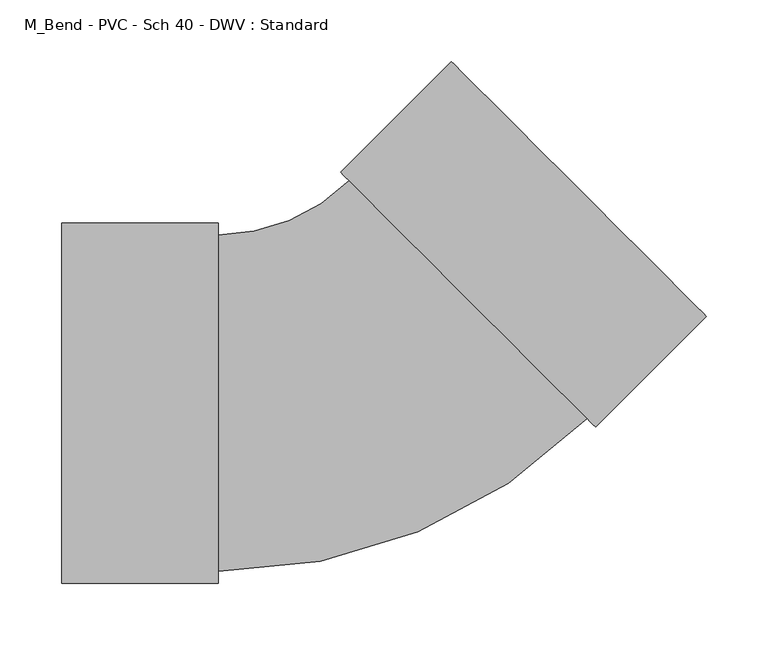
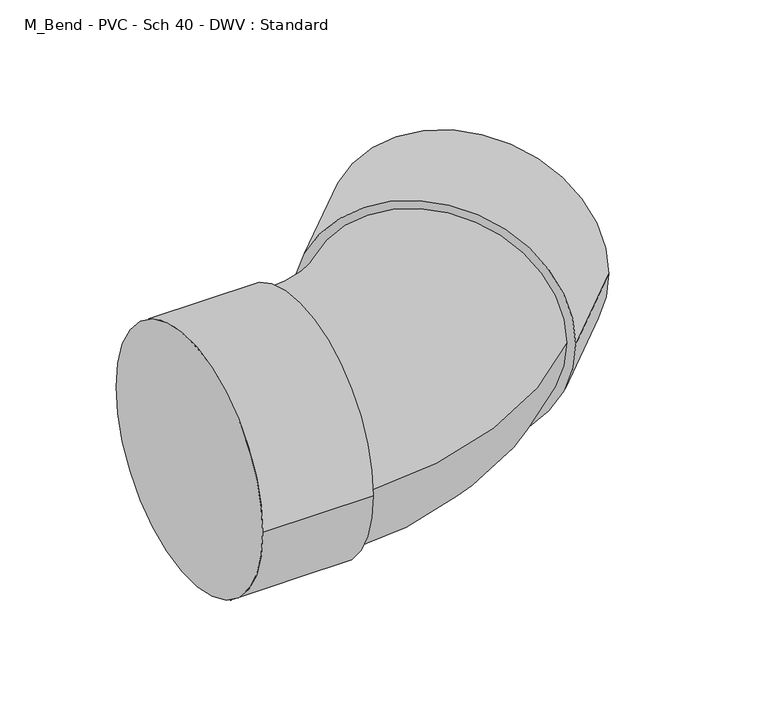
"""IFC4 building model written with IfcOpenShell, lengths in millimetres: pipe fitting geometry, M_Bend - PVC - Sch 40 - DWV : Standard."""

import ifcopenshell
import ifcopenshell.guid

model = None  # the IFC model being written
_history = None  # IfcOwnerHistory: only IFC2X3 demands one
_inside = {}  # id of a spatial element -> (the spatial element, [elements in it])
_under = {}  # id of a project, library or spatial element -> (it, [spatial elements below it])
_declared = {}  # id of a project -> (the project, [libraries it declares])
_typed = {}  # id of a type object -> (the type object, [elements of that type])
_made_of = {}  # id of a material, layer set ... -> (it, [elements and type objects made of it])


def new_model(schema):
    """Start an empty IFC model of exactly this schema.

    Asked for "IFC4X3", IfcOpenShell would pick the latest addendum, in which some entities
    have other attributes; the version numbers below select the first issue.
    IFC2X3 requires an IfcOwnerHistory on every rooted entity: one is made here for all.
    """
    global model, _history
    if schema == "IFC4X3":
        model = ifcopenshell.file(schema_version=(4, 3, 0, 0))
    else:
        model = ifcopenshell.file(schema=schema)
    _inside.clear()
    _under.clear()
    _declared.clear()
    _typed.clear()
    _made_of.clear()
    _history = None
    if model.schema == "IFC2X3":
        org = make("IfcOrganization", Name="unknown")
        user = make(
            "IfcPersonAndOrganization",
            ThePerson=make("IfcPerson", FamilyName="unknown"),
            TheOrganization=org,
        )
        app = make(
            "IfcApplication",
            ApplicationDeveloper=org,
            Version="unknown",
            ApplicationFullName="unknown",
            ApplicationIdentifier="unknown",
        )
        _history = make(
            "IfcOwnerHistory",
            OwningUser=user,
            OwningApplication=app,
            ChangeAction="ADDED",
            CreationDate=0,
        )
    return model


def make(cls, **values):
    """One entity of the class cls with the attributes given. An attribute that is None is left unset."""
    return model.create_entity(
        cls, **{name: value for name, value in values.items() if value is not None}
    )


def rooted(cls, **values):
    """An entity with a GlobalId (a new one), such as an element, a storey or a relation."""
    return make(cls, GlobalId=ifcopenshell.guid.new(), OwnerHistory=_history, **values)


def si_unit(unit_type, name, prefix=None):
    """IfcSIUnit, for example si_unit("LENGTHUNIT", "METRE", prefix="MILLI")."""
    return make("IfcSIUnit", UnitType=unit_type, Prefix=prefix, Name=name)


def assignment(units):
    """IfcUnitAssignment: the units of a project."""
    return None if units is None else make("IfcUnitAssignment", Units=units)


def point(xyz):
    """IfcCartesianPoint."""
    return None if xyz is None else make("IfcCartesianPoint", Coordinates=xyz)


def direction(xyz):
    """IfcDirection."""
    return None if xyz is None else make("IfcDirection", DirectionRatios=xyz)


def frame(location, z_axis=None, x_axis=None):
    """IfcAxis2Placement3D, a coordinate frame: its origin and axes. An axis left out is left unset."""
    return make(
        "IfcAxis2Placement3D",
        Location=point(location),
        Axis=direction(z_axis),
        RefDirection=direction(x_axis),
    )


def origin():
    """The frame at (0, 0, 0) with its axes left unset."""
    return frame((0.0, 0.0, 0.0))


def place(relative_to, where):
    """IfcLocalPlacement: puts the frame where relative to a parent placement (None: the world)."""
    return make(
        "IfcLocalPlacement", PlacementRelTo=relative_to, RelativePlacement=where
    )


def context(
    kind, dimensions, precision=None, world=None, true_north=None, identifier=None
):
    """IfcGeometricRepresentationContext, for example the 3D "Model" context."""
    return make(
        "IfcGeometricRepresentationContext",
        ContextIdentifier=identifier,
        ContextType=kind,
        CoordinateSpaceDimension=dimensions,
        Precision=precision,
        WorldCoordinateSystem=world,
        TrueNorth=true_north,
    )


def project(units=None, contexts=None):
    """IfcProject with its units and contexts."""
    return rooted(
        "IfcProject",
        Name="project",
        RepresentationContexts=contexts,
        UnitsInContext=assignment(units),
    )


def spatial(cls, under=None, at=None, **own):
    """A site, building, storey or space (cls), placed at a placement, below another one or the project."""
    s = rooted(cls, ObjectPlacement=at, **own)
    if under is not None:
        _under.setdefault(under.id(), (under, []))[1].append(s)
    return s


def circle_curve(where, radius):
    """IfcCircle in the frame where."""
    return make("IfcCircle", Position=where, Radius=radius)


def ellipse_curve(where, semi_axis1, semi_axis2):
    """IfcEllipse in the frame where."""
    return make(
        "IfcEllipse", Position=where, SemiAxis1=semi_axis1, SemiAxis2=semi_axis2
    )


def trimmed(basis, trim1, trim2, sense, master):
    """IfcTrimmedCurve: the piece of a basis curve between two trims."""
    return make(
        "IfcTrimmedCurve",
        BasisCurve=basis,
        Trim1=trim1,
        Trim2=trim2,
        SenseAgreement=sense,
        MasterRepresentation=master,
    )


def shape(context_of_items, identifier, shape_type, items):
    """IfcShapeRepresentation: the items that make up one representation, for example the "Body"."""
    return make(
        "IfcShapeRepresentation",
        ContextOfItems=context_of_items,
        RepresentationIdentifier=identifier,
        RepresentationType=shape_type,
        Items=items,
    )


def source(mapping_origin, context_of_items, identifier, shape_type, items):
    """IfcRepresentationMap: a shape defined once, which mapped items show again and again."""
    return make(
        "IfcRepresentationMap",
        MappingOrigin=mapping_origin,
        MappedRepresentation=shape(context_of_items, identifier, shape_type, items),
    )


def transform(
    local_origin,
    x_axis=None,
    y_axis=None,
    z_axis=None,
    scale=None,
    scale2=None,
    scale3=None,
    uniform=True,
):
    """IfcCartesianTransformationOperator3D, or its non-uniform kind. x_axis, y_axis, z_axis: its Axis1, 2, 3."""
    if uniform:
        return make(
            "IfcCartesianTransformationOperator3D",
            Axis1=direction(x_axis),
            Axis2=direction(y_axis),
            LocalOrigin=point(local_origin),
            Scale=scale,
            Axis3=direction(z_axis),
        )
    return make(
        "IfcCartesianTransformationOperator3DnonUniform",
        Axis1=direction(x_axis),
        Axis2=direction(y_axis),
        LocalOrigin=point(local_origin),
        Scale=scale,
        Axis3=direction(z_axis),
        Scale2=scale2,
        Scale3=scale3,
    )


def mapped(mapping_source, mapping_target):
    """IfcMappedItem: shows the shape of a source again, moved by a transform."""
    return make(
        "IfcMappedItem", MappingSource=mapping_source, MappingTarget=mapping_target
    )


def made_of(thing, what):
    """Note that an element or type object is made of a material, layer set ...; save() writes the relation."""
    if what is not None:
        _made_of.setdefault(what.id(), (what, []))[1].append(thing)
    return thing


def element(
    cls,
    number,
    at=None,
    inside=None,
    cuts=None,
    type_object=None,
    material=None,
    context=None,
    identifier="Body",
    shape_type=None,
    held_by="IfcProductDefinitionShape",
    body=None,
    shapes=None,
    **own,
):
    """One element of the class cls, such as IfcWall. Its Tag is "e" and its number.

    at: its placement. inside: the storey or other place that contains it. cuts: it is an
    opening in that element (IfcRelVoidsElement). A single representation is given by context,
    identifier, shape_type and body (its items); several are given by shapes. held_by: the class
    of the entity that holds the representations. save() writes the other relations.
    """
    e = rooted(cls, Tag="e%d" % number, ObjectPlacement=at, **own)
    if body is not None:
        shapes = [shape(context, identifier, shape_type, body)]
    if shapes is not None:
        e.Representation = make(held_by, Representations=shapes)
    if inside is not None:
        _inside.setdefault(inside.id(), (inside, []))[1].append(e)
    if cuts is not None:
        rooted(
            "IfcRelVoidsElement", RelatingBuildingElement=cuts, RelatedOpeningElement=e
        )
    if type_object is not None:
        _typed.setdefault(type_object.id(), (type_object, []))[1].append(e)
    return made_of(e, material)


def aggregate(whole, parts):
    """IfcRelAggregates: a whole, such as a stair, and the parts it consists of."""
    return rooted("IfcRelAggregates", RelatingObject=whole, RelatedObjects=parts)


def save(model, path):
    """Write the relations noted so far, then the file.

    IfcRelAggregates (storeys below a building ...), IfcRelContainedInSpatialStructure (elements
    in a storey), IfcRelDefinesByType, IfcRelAssociatesMaterial and IfcRelDeclares: one each for
    every whole, place, type object, material and project.
    """
    for whole, parts in _under.values():
        aggregate(whole, parts)
    for where, things in _inside.values():
        rooted(
            "IfcRelContainedInSpatialStructure",
            RelatedElements=things,
            RelatingStructure=where,
        )
    for kind, things in _typed.values():
        rooted("IfcRelDefinesByType", RelatedObjects=things, RelatingType=kind)
    for what, things in _made_of.values():
        rooted("IfcRelAssociatesMaterial", RelatedObjects=things, RelatingMaterial=what)
    for by, libraries in _declared.values():
        rooted("IfcRelDeclares", RelatingContext=by, RelatedDefinitions=libraries)
    model.write(path)


def plane_surface(at):
    """IfcPlane: the flat surface through the origin of the frame at, square to its z axis."""
    return make("IfcPlane", Position=at)


def cylinder_surface(at, radius):
    """IfcCylindricalSurface: all points at the distance radius from the z axis of the frame at."""
    return make("IfcCylindricalSurface", Position=at, Radius=radius)


def revolved_surface(curve, axis_point, axis_direction):
    """IfcSurfaceOfRevolution: the curve turned about the line through axis_point along axis_direction."""
    return make(
        "IfcSurfaceOfRevolution",
        SweptCurve=make("IfcArbitraryOpenProfileDef", ProfileType="CURVE", Curve=curve),
        AxisPosition=make("IfcAxis1Placement", Location=point(axis_point), Axis=direction(axis_direction)),
    )


def advanced_brep(points, edges, surfaces, faces):
    """IfcAdvancedBrep: a solid bounded by faces that lie on surfaces and meet in shared edges.

    An edge is (start, end): straight between two places in points (the first is 0);
    or (start, end, curve); or (start, end, curve, False) where it runs against its curve.
    A face is (place in surfaces, loops), or (place, loops, False) where it looks against
    its surface's normal. A loop lists edges by number (the first is 1), with a minus sign
    where the edge is run from its end to its start. The first loop is the outer one.
    """
    corners = [point(p) for p in points]
    vertices = [make("IfcVertexPoint", VertexGeometry=c) for c in corners]
    made = []
    for start, end, *more in edges:
        made.append(
            make(
                "IfcEdgeCurve",
                EdgeStart=vertices[start],
                EdgeEnd=vertices[end],
                EdgeGeometry=more[0] if more else make("IfcPolyline", Points=[corners[start], corners[end]]),
                SameSense=more[1] if len(more) > 1 else True,
            )
        )
    hull = []
    for where, loops, *sense in faces:
        bounds = []
        for j, loop in enumerate(loops):
            ring = [make("IfcOrientedEdge", EdgeElement=made[abs(k) - 1], Orientation=k > 0) for k in loop]
            bounds.append(
                make(
                    "IfcFaceOuterBound" if j == 0 else "IfcFaceBound",
                    Bound=make("IfcEdgeLoop", EdgeList=ring),
                    Orientation=True,
                )
            )
        hull.append(make("IfcAdvancedFace", Bounds=bounds, FaceSurface=surfaces[where], SameSense=sense[0] if sense else True))
    return make("IfcAdvancedBrep", Outer=make("IfcClosedShell", CfsFaces=hull))


def m_bend_pvc_sch_40_dwv_standard_b2b7a502(model_context):
    return source(origin(), model_context, "Body", "AdvancedBrep", [
        advanced_brep(
        [(-245.6921875, -146.177, 0.0), (-245.6921875, 146.177, 0.0), (-118.6921875, -146.177, 0.0), (-118.6921875, 146.177, 0.0), (-118.6921875, -136.525, 0.0), (-118.6921875, 136.525, 0.0), (-12.6097026, 180.465804, 0.0), (180.465804, -12.6097026, 0.0), (187.2907986, -19.4346973, 0.0), (-19.4346973, 187.2907986, 0.0), (277.0933598, 70.3678639, 0.0), (70.3678639, 277.0933598, 0.0)],
        [
            (0, 1, circle_curve(frame((-245.6921875, 0.0, 0.0), z_axis=(-1.0, 0.0, 0.0), x_axis=(0.0, 1.0, 0.0)), 146.177)),
            (1, 0, circle_curve(frame((-245.6921875, 0.0, 0.0), z_axis=(-1.0, 0.0, 0.0), x_axis=(0.0, 1.0, 0.0)), 146.177)),
            (2, 3, circle_curve(frame((-118.6921875, 0.0, 0.0), z_axis=(1.0, 0.0, 0.0), x_axis=(0.0, 1.0, 0.0)), 146.177)),
            (3, 2, circle_curve(frame((-118.6921875, 0.0, 0.0), z_axis=(1.0, 0.0, 0.0), x_axis=(0.0, 1.0, 0.0)), 146.177)),
            (4, 5, circle_curve(frame((-118.6921875, 0.0, 0.0), z_axis=(-1.0, 0.0, 0.0), x_axis=(0.0, 1.0, 0.0)), 136.525)),
            (5, 4, circle_curve(frame((-118.6921875, 0.0, 0.0), z_axis=(-1.0, 0.0, 0.0), x_axis=(0.0, 1.0, 0.0)), 136.525)),
            (0, 2),
            (3, 1),
            (6, 5, circle_curve(frame((-118.6921875, 286.5482888, 0.0), z_axis=(0.0, 0.0, -1.0), x_axis=(0.0, -1.0, 0.0)), 150.0232888)),
            (4, 7, circle_curve(frame((-118.6921875, 286.5482888, 0.0), z_axis=(0.0, 0.0, 1.0), x_axis=(0.0, -1.0, 0.0)), 423.0732888)),
            (7, 6, circle_curve(frame((83.9280507, 83.9280507, 0.0), z_axis=(-0.7071067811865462, -0.7071067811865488, 0.0), x_axis=(-0.7071067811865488, 0.7071067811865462, 0.0)), 136.525)),
            (6, 7, circle_curve(frame((83.9280507, 83.9280507, 0.0), z_axis=(-0.7071067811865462, -0.7071067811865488, 0.0), x_axis=(-0.7071067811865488, 0.7071067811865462, 0.0)), 136.525)),
            (8, 9, circle_curve(frame((83.9280507, 83.9280507, 0.0), z_axis=(-0.7071067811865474, -0.7071067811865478, 0.0), x_axis=(-0.7071067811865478, 0.7071067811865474, 0.0)), 146.177)),
            (9, 8, circle_curve(frame((83.9280507, 83.9280507, 0.0), z_axis=(-0.7071067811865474, -0.7071067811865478, 0.0), x_axis=(-0.7071067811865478, 0.7071067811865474, 0.0)), 146.177)),
            (10, 11, circle_curve(frame((173.7306119, 173.7306119, 0.0), z_axis=(0.7071067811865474, 0.7071067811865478, 0.0), x_axis=(-0.7071067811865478, 0.7071067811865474, 0.0)), 146.177)),
            (11, 10, circle_curve(frame((173.7306119, 173.7306119, 0.0), z_axis=(0.7071067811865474, 0.7071067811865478, 0.0), x_axis=(-0.7071067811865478, 0.7071067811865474, 0.0)), 146.177)),
            (8, 10),
            (11, 9),
        ],
        [
            plane_surface(frame((-245.6921875, 0.0, 0.0), z_axis=(-1.0, 0.0, 0.0), x_axis=(0.0, 0.0, 1.0))),
            plane_surface(frame((-118.6921875, 0.0, 0.0), z_axis=(1.0, 0.0, 0.0), x_axis=(0.0, 0.0, 1.0))),
            cylinder_surface(frame((-245.6921875, 0.0, 0.0), z_axis=(-1.0, 0.0, 0.0), x_axis=(0.0, 1.0, 0.0)), 146.177),
            revolved_surface(trimmed(ellipse_curve(frame((-118.6921875, 0.0, 0.0), z_axis=(-1.0, 0.0, 0.0), x_axis=(0.0, 1.0, 0.0)), 136.525, 136.525), [point((-118.6921875, -136.525, 0.0))], [point((-118.6921875, 136.525, 0.0))], True, "CARTESIAN"), (-118.6921875, 286.5482888, 0.0), (0.0, 0.0, 1.0)),
            revolved_surface(trimmed(ellipse_curve(frame((-118.6921875, 0.0, 0.0), z_axis=(-1.0, 0.0, 0.0), x_axis=(0.0, 1.0, 0.0)), 136.525, 136.525), [point((-118.6921875, 136.525, 0.0))], [point((-118.6921875, -136.525, 0.0))], True, "CARTESIAN"), (-118.6921875, 286.5482888, 0.0), (0.0, 0.0, 1.0)),
            plane_surface(frame((83.9280507, 83.9280507, 0.0), z_axis=(-0.7071067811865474, -0.7071067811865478, 0.0), x_axis=(0.0, 0.0, 1.0))),
            plane_surface(frame((173.7306119, 173.7306119, 0.0), z_axis=(0.7071067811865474, 0.7071067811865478, 0.0), x_axis=(0.0, 0.0, 1.0))),
            cylinder_surface(frame((83.9280507, 83.9280507, 0.0), z_axis=(-0.7071067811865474, -0.7071067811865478, 0.0), x_axis=(-0.7071067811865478, 0.7071067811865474, 0.0)), 146.177),
        ],
        [
            (0, [[1, 2]]),
            (1, [[3, 4], [5, 6]]),
            (2, [[-1, 7, -4, 8]]),
            (2, [[-2, -8, -3, -7]]),
            (3, [[9, -5, 10, 11]]),
            (4, [[-9, 12, -10, -6]]),
            (5, [[13, 14], [-11, -12]]),
            (6, [[15, 16]]),
            (7, [[-13, 17, -16, 18]]),
            (7, [[-14, -18, -15, -17]]),
        ],
    ),
    ])


if __name__ == "__main__":
    model = new_model("IFC4")
    model_context = context("Model", 3, world=origin())
    ifc_project = project(units=[si_unit("LENGTHUNIT", "METRE", prefix="MILLI")], contexts=[model_context])
    site = spatial("IfcSite", under=ifc_project)
    building = spatial("IfcBuilding", under=site)
    placement = place(None, origin())
    m_bend_pvc_sch_40_dwv_standard_shape = m_bend_pvc_sch_40_dwv_standard_b2b7a502(model_context)
    element("IfcPipeFitting", 1, ObjectType="M_Bend - PVC - Sch 40 - DWV : Standard", at=placement, inside=building, context=model_context, shape_type="MappedRepresentation", body=[
        mapped(m_bend_pvc_sch_40_dwv_standard_shape, transform((0.0, 0.0, 0.0), x_axis=(1.0, 0.0, 0.0), y_axis=(0.0, 1.0, 0.0), z_axis=(0.0, 0.0, 1.0))),
    ])
    save(model, "model.ifc")
